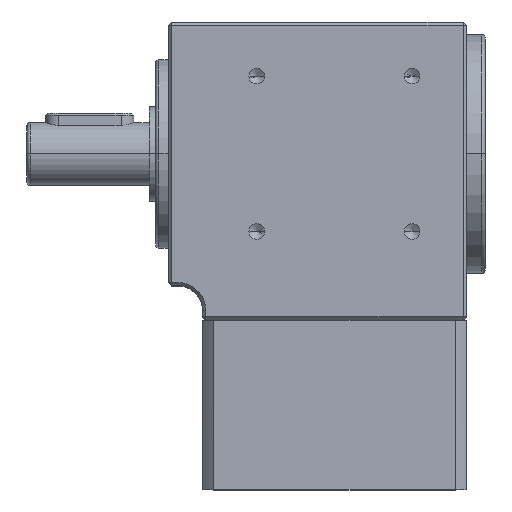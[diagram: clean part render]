
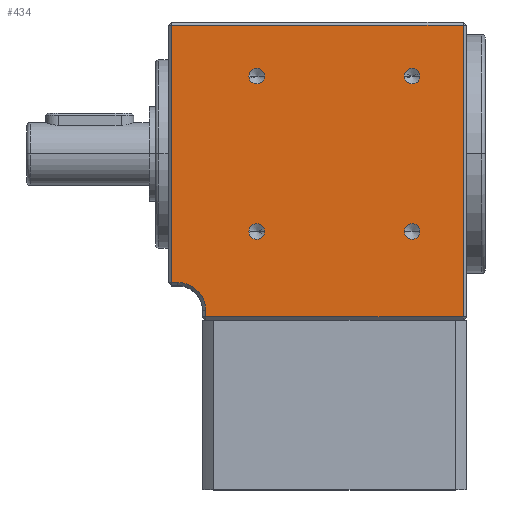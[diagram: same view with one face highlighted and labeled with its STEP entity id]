
A CAD part, top view. The second image highlights one B-rep face of the part: STEP entity #434.
In plain terms, the highlighted planar face has unit normal (0, 0, 1).
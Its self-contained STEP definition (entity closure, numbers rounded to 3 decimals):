
#31 = CIRCLE ( 'NONE', #4607, 1.25 ) ;
#66 = ORIENTED_EDGE ( 'NONE', *, *, #5193, .T. ) ;
#295 = FACE_BOUND ( 'NONE', #2912, .T. ) ;
#328 = VERTEX_POINT ( 'NONE', #3893 ) ;
#343 = DIRECTION ( 'NONE',  ( -1., 0., 0. ) ) ;
#395 = EDGE_LOOP ( 'NONE', ( #2898, #3027 ) ) ;
#434 = ADVANCED_FACE ( 'NONE', ( #1757, #2716, #295, #550, #4496 ), #699, .F. ) ;
#452 = VECTOR ( 'NONE', #1504, 1000. ) ;
#481 = ORIENTED_EDGE ( 'NONE', *, *, #3006, .F. ) ;
#542 = EDGE_CURVE ( 'NONE', #1318, #2058, #2273, .T. ) ;
#550 = FACE_BOUND ( 'NONE', #4561, .T. ) ;
#567 = CARTESIAN_POINT ( 'NONE',  ( -9.624, 12.374, 21. ) ) ;
#645 = CARTESIAN_POINT ( 'NONE',  ( -23.25, 0., 21. ) ) ;
#652 = VERTEX_POINT ( 'NONE', #3295 ) ;
#665 = LINE ( 'NONE', #4594, #1869 ) ;
#680 = CIRCLE ( 'NONE', #2475, 1.25 ) ;
#694 = CARTESIAN_POINT ( 'NONE',  ( 15.124, -12.374, 21. ) ) ;
#699 = PLANE ( 'NONE',  #4838 ) ;
#744 = CARTESIAN_POINT ( 'NONE',  ( -22.25, -25., 21. ) ) ;
#806 = AXIS2_PLACEMENT_3D ( 'NONE', #694, #2362, #3137 ) ;
#809 = VERTEX_POINT ( 'NONE', #3531 ) ;
#833 = DIRECTION ( 'NONE',  ( 1., 0., 0. ) ) ;
#847 = LINE ( 'NONE', #2336, #452 ) ;
#853 = AXIS2_PLACEMENT_3D ( 'NONE', #4139, #3301, #4065 ) ;
#886 = DIRECTION ( 'NONE',  ( 0., 0., 1. ) ) ;
#918 = EDGE_CURVE ( 'NONE', #652, #3689, #4859, .T. ) ;
#959 = ORIENTED_EDGE ( 'NONE', *, *, #918, .T. ) ;
#980 = LINE ( 'NONE', #2080, #1169 ) ;
#999 = EDGE_CURVE ( 'NONE', #1820, #2320, #2053, .T. ) ;
#1009 = DIRECTION ( 'NONE',  ( 0., -1., 0. ) ) ;
#1011 = CIRCLE ( 'NONE', #2672, 1.25 ) ;
#1053 = DIRECTION ( 'NONE',  ( 0., 0., 1. ) ) ;
#1077 = VERTEX_POINT ( 'NONE', #2070 ) ;
#1105 = CARTESIAN_POINT ( 'NONE',  ( -17.75, 0., 21. ) ) ;
#1169 = VECTOR ( 'NONE', #2950, 1000. ) ;
#1318 = VERTEX_POINT ( 'NONE', #1791 ) ;
#1436 = CARTESIAN_POINT ( 'NONE',  ( 23.25, 0., 21. ) ) ;
#1493 = LINE ( 'NONE', #645, #3146 ) ;
#1504 = DIRECTION ( 'NONE',  ( -1., 0., 0. ) ) ;
#1557 = DIRECTION ( 'NONE',  ( 0., 0., 1. ) ) ;
#1582 = ORIENTED_EDGE ( 'NONE', *, *, #542, .T. ) ;
#1589 = CARTESIAN_POINT ( 'NONE',  ( 15.124, 12.374, 21. ) ) ;
#1662 = EDGE_LOOP ( 'NONE', ( #3111, #481 ) ) ;
#1714 = EDGE_CURVE ( 'NONE', #1077, #2399, #3318, .T. ) ;
#1757 = FACE_BOUND ( 'NONE', #395, .T. ) ;
#1784 = DIRECTION ( 'NONE',  ( 1., 0., 0. ) ) ;
#1791 = CARTESIAN_POINT ( 'NONE',  ( -22.25, -20.5, 21. ) ) ;
#1820 = VERTEX_POINT ( 'NONE', #4570 ) ;
#1869 = VECTOR ( 'NONE', #4203, 1000. ) ;
#1922 = ORIENTED_EDGE ( 'NONE', *, *, #1714, .F. ) ;
#1980 = CARTESIAN_POINT ( 'NONE',  ( -23.25, -20.5, 21. ) ) ;
#1999 = ORIENTED_EDGE ( 'NONE', *, *, #2108, .T. ) ;
#2053 = CIRCLE ( 'NONE', #806, 1.25 ) ;
#2058 = VERTEX_POINT ( 'NONE', #2649 ) ;
#2060 = CARTESIAN_POINT ( 'NONE',  ( 15.124, 12.374, 21. ) ) ;
#2070 = CARTESIAN_POINT ( 'NONE',  ( -10.874, -12.374, 21. ) ) ;
#2080 = CARTESIAN_POINT ( 'NONE',  ( 0., -20.5, 21. ) ) ;
#2098 = CARTESIAN_POINT ( 'NONE',  ( -9.624, 12.374, 21. ) ) ;
#2108 = EDGE_CURVE ( 'NONE', #2058, #3841, #4512, .T. ) ;
#2119 = DIRECTION ( 'NONE',  ( 0., -1., 0. ) ) ;
#2212 = CARTESIAN_POINT ( 'NONE',  ( -23.25, 20.5, 21. ) ) ;
#2266 = VERTEX_POINT ( 'NONE', #3048 ) ;
#2273 = CIRCLE ( 'NONE', #4266, 4.5 ) ;
#2310 = CARTESIAN_POINT ( 'NONE',  ( 0., 0., 21. ) ) ;
#2320 = VERTEX_POINT ( 'NONE', #2633 ) ;
#2336 = CARTESIAN_POINT ( 'NONE',  ( 0., 20.5, 21. ) ) ;
#2351 = DIRECTION ( 'NONE',  ( 0., 0., -1. ) ) ;
#2362 = DIRECTION ( 'NONE',  ( 0., 0., 1. ) ) ;
#2399 = VERTEX_POINT ( 'NONE', #3611 ) ;
#2444 = EDGE_CURVE ( 'NONE', #809, #4795, #3942, .T. ) ;
#2447 = AXIS2_PLACEMENT_3D ( 'NONE', #2098, #3684, #833 ) ;
#2454 = EDGE_CURVE ( 'NONE', #2266, #328, #680, .T. ) ;
#2475 = AXIS2_PLACEMENT_3D ( 'NONE', #2060, #886, #3299 ) ;
#2572 = CARTESIAN_POINT ( 'NONE',  ( 15.124, -12.374, 21. ) ) ;
#2633 = CARTESIAN_POINT ( 'NONE',  ( 16.374, -12.374, 21. ) ) ;
#2646 = AXIS2_PLACEMENT_3D ( 'NONE', #5100, #1053, #5117 ) ;
#2649 = CARTESIAN_POINT ( 'NONE',  ( -17.75, -25., 21. ) ) ;
#2672 = AXIS2_PLACEMENT_3D ( 'NONE', #2572, #3758, #3384 ) ;
#2716 = FACE_BOUND ( 'NONE', #1662, .T. ) ;
#2798 = VECTOR ( 'NONE', #2119, 1000. ) ;
#2898 = ORIENTED_EDGE ( 'NONE', *, *, #4816, .F. ) ;
#2912 = EDGE_LOOP ( 'NONE', ( #5068, #3258 ) ) ;
#2950 = DIRECTION ( 'NONE',  ( 1., 0., 0. ) ) ;
#3006 = EDGE_CURVE ( 'NONE', #328, #2266, #31, .T. ) ;
#3027 = ORIENTED_EDGE ( 'NONE', *, *, #2444, .F. ) ;
#3040 = VERTEX_POINT ( 'NONE', #1980 ) ;
#3048 = CARTESIAN_POINT ( 'NONE',  ( 16.374, 12.374, 21. ) ) ;
#3111 = ORIENTED_EDGE ( 'NONE', *, *, #2454, .F. ) ;
#3137 = DIRECTION ( 'NONE',  ( 1., 0., 0. ) ) ;
#3146 = VECTOR ( 'NONE', #1009, 1000. ) ;
#3250 = ORIENTED_EDGE ( 'NONE', *, *, #4280, .T. ) ;
#3258 = ORIENTED_EDGE ( 'NONE', *, *, #999, .F. ) ;
#3295 = CARTESIAN_POINT ( 'NONE',  ( 23.25, -26., 21. ) ) ;
#3299 = DIRECTION ( 'NONE',  ( 1., 0., 0. ) ) ;
#3301 = DIRECTION ( 'NONE',  ( 0., 0., 1. ) ) ;
#3303 = CARTESIAN_POINT ( 'NONE',  ( -8.374, 12.374, 21. ) ) ;
#3318 = CIRCLE ( 'NONE', #853, 1.25 ) ;
#3384 = DIRECTION ( 'NONE',  ( 1., 0., 0. ) ) ;
#3459 = EDGE_CURVE ( 'NONE', #2320, #1820, #1011, .T. ) ;
#3531 = CARTESIAN_POINT ( 'NONE',  ( -10.874, 12.374, 21. ) ) ;
#3611 = CARTESIAN_POINT ( 'NONE',  ( -8.374, -12.374, 21. ) ) ;
#3664 = DIRECTION ( 'NONE',  ( 1., 0., 0. ) ) ;
#3684 = DIRECTION ( 'NONE',  ( 0., 0., 1. ) ) ;
#3689 = VERTEX_POINT ( 'NONE', #4048 ) ;
#3726 = CIRCLE ( 'NONE', #2646, 1.25 ) ;
#3758 = DIRECTION ( 'NONE',  ( 0., 0., 1. ) ) ;
#3792 = ORIENTED_EDGE ( 'NONE', *, *, #5028, .F. ) ;
#3841 = VERTEX_POINT ( 'NONE', #4862 ) ;
#3893 = CARTESIAN_POINT ( 'NONE',  ( 13.874, 12.374, 21. ) ) ;
#3942 = CIRCLE ( 'NONE', #2447, 1.25 ) ;
#3985 = DIRECTION ( 'NONE',  ( -1., 0., 0. ) ) ;
#4048 = CARTESIAN_POINT ( 'NONE',  ( 23.25, 20.5, 21. ) ) ;
#4065 = DIRECTION ( 'NONE',  ( 1., 0., 0. ) ) ;
#4096 = ORIENTED_EDGE ( 'NONE', *, *, #4319, .T. ) ;
#4139 = CARTESIAN_POINT ( 'NONE',  ( -9.624, -12.374, 21. ) ) ;
#4171 = DIRECTION ( 'NONE',  ( 0., 0., 1. ) ) ;
#4203 = DIRECTION ( 'NONE',  ( 1., 0., 0. ) ) ;
#4266 = AXIS2_PLACEMENT_3D ( 'NONE', #744, #5294, #343 ) ;
#4280 = EDGE_CURVE ( 'NONE', #3841, #652, #665, .T. ) ;
#4293 = DIRECTION ( 'NONE',  ( 0., 1., 0. ) ) ;
#4319 = EDGE_CURVE ( 'NONE', #4331, #3040, #1493, .T. ) ;
#4331 = VERTEX_POINT ( 'NONE', #2212 ) ;
#4356 = AXIS2_PLACEMENT_3D ( 'NONE', #567, #4171, #1784 ) ;
#4448 = ORIENTED_EDGE ( 'NONE', *, *, #4806, .T. ) ;
#4496 = FACE_OUTER_BOUND ( 'NONE', #5041, .T. ) ;
#4512 = LINE ( 'NONE', #1105, #2798 ) ;
#4561 = EDGE_LOOP ( 'NONE', ( #3792, #1922 ) ) ;
#4570 = CARTESIAN_POINT ( 'NONE',  ( 13.874, -12.374, 21. ) ) ;
#4594 = CARTESIAN_POINT ( 'NONE',  ( 0., -26., 21. ) ) ;
#4598 = VECTOR ( 'NONE', #4293, 1000. ) ;
#4607 = AXIS2_PLACEMENT_3D ( 'NONE', #1589, #1557, #3664 ) ;
#4795 = VERTEX_POINT ( 'NONE', #3303 ) ;
#4806 = EDGE_CURVE ( 'NONE', #3040, #1318, #980, .T. ) ;
#4816 = EDGE_CURVE ( 'NONE', #4795, #809, #5053, .T. ) ;
#4838 = AXIS2_PLACEMENT_3D ( 'NONE', #2310, #2351, #3985 ) ;
#4859 = LINE ( 'NONE', #1436, #4598 ) ;
#4862 = CARTESIAN_POINT ( 'NONE',  ( -17.75, -26., 21. ) ) ;
#5028 = EDGE_CURVE ( 'NONE', #2399, #1077, #3726, .T. ) ;
#5041 = EDGE_LOOP ( 'NONE', ( #1999, #3250, #959, #66, #4096, #4448, #1582 ) ) ;
#5053 = CIRCLE ( 'NONE', #4356, 1.25 ) ;
#5068 = ORIENTED_EDGE ( 'NONE', *, *, #3459, .F. ) ;
#5100 = CARTESIAN_POINT ( 'NONE',  ( -9.624, -12.374, 21. ) ) ;
#5117 = DIRECTION ( 'NONE',  ( 1., 0., 0. ) ) ;
#5193 = EDGE_CURVE ( 'NONE', #3689, #4331, #847, .T. ) ;
#5294 = DIRECTION ( 'NONE',  ( 0., 0., -1. ) ) ;
